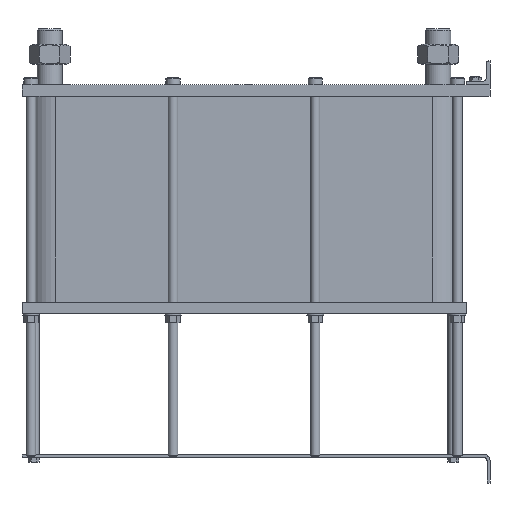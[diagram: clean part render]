
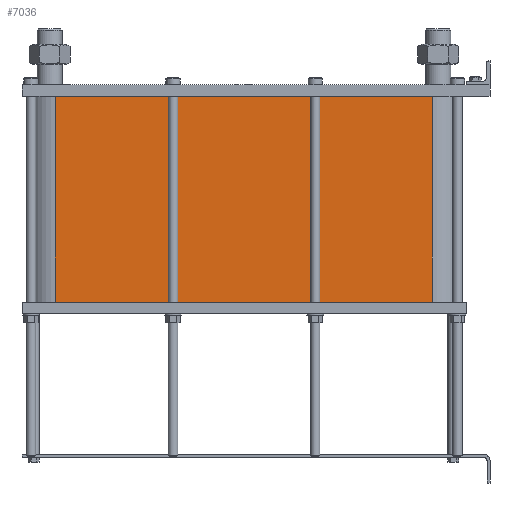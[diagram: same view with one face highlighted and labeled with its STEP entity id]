
A CAD part, left-side view. The second image highlights one B-rep face of the part: STEP entity #7036.
In plain terms, the highlighted planar face has unit normal (-1, 0, 0).
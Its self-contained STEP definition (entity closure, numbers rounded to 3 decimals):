
#999=LINE('',#15640,#1553);
#1031=LINE('',#15723,#1585);
#1032=LINE('',#15726,#1586);
#1033=LINE('',#15727,#1587);
#1553=VECTOR('',#9658,10.);
#1585=VECTOR('',#9736,10.);
#1586=VECTOR('',#9741,10.);
#1587=VECTOR('',#9742,10.);
#2117=FACE_OUTER_BOUND('',#2671,.T.);
#2671=EDGE_LOOP('',(#6246,#6247,#6248,#6249));
#3527=VERTEX_POINT('',#15634);
#3529=VERTEX_POINT('',#15638);
#3556=VERTEX_POINT('',#15720);
#3557=VERTEX_POINT('',#15722);
#4425=EDGE_CURVE('',#3529,#3527,#999,.T.);
#4466=EDGE_CURVE('',#3557,#3556,#1031,.T.);
#4468=EDGE_CURVE('',#3527,#3556,#1032,.T.);
#4469=EDGE_CURVE('',#3557,#3529,#1033,.T.);
#6246=ORIENTED_EDGE('',*,*,#4468,.F.);
#6247=ORIENTED_EDGE('',*,*,#4425,.F.);
#6248=ORIENTED_EDGE('',*,*,#4469,.F.);
#6249=ORIENTED_EDGE('',*,*,#4466,.T.);
#6608=PLANE('',#7812);
#7036=ADVANCED_FACE('',(#2117),#6608,.T.);
#7812=AXIS2_PLACEMENT_3D('',#15725,#9739,#9740);
#9658=DIRECTION('',(0.,0.,-1.));
#9736=DIRECTION('',(0.,0.,-1.));
#9739=DIRECTION('center_axis',(-1.,0.,0.));
#9740=DIRECTION('ref_axis',(0.,1.,0.));
#9741=DIRECTION('',(0.,1.,0.));
#9742=DIRECTION('',(0.,-1.,0.));
#15634=CARTESIAN_POINT('',(-72.,97.5,-347.2));
#15638=CARTESIAN_POINT('',(-72.,97.5,0.));
#15640=CARTESIAN_POINT('',(-72.,97.5,0.));
#15720=CARTESIAN_POINT('',(-72.,733.5,-347.2));
#15722=CARTESIAN_POINT('',(-72.,733.5,0.));
#15723=CARTESIAN_POINT('',(-72.,733.5,0.));
#15725=CARTESIAN_POINT('Origin',(-72.,97.5,0.));
#15726=CARTESIAN_POINT('',(-72.,256.5,-347.2));
#15727=CARTESIAN_POINT('',(-72.,733.5,0.));
